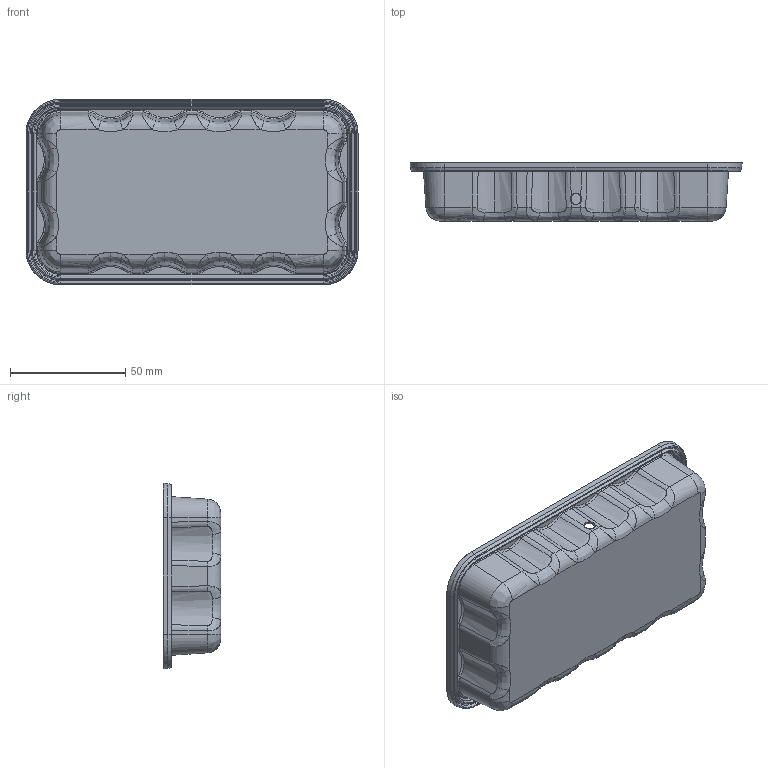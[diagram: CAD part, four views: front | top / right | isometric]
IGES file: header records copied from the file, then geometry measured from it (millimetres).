
Start section: SolidWorks IGES file using analytic representation for surfaces
Global section: file name: C:\Working\1015\1015 oem DRAWING\1015-965-CLR.IGS; native system: SolidWorks 2007; preprocessor: SolidWorks 2007; author: mhakami; date: 090811.173307; units: inch
Bounding box: 143.94 x 25.15 x 80.44 mm (x, y, z)
Surface area: 41130 mm2 (no closed solid volume)
Topology: 0 solids, 0 shells, 466 faces, 3444 edges, 3444 vertices
Faces by surface type: bspline 309, revolution 157
